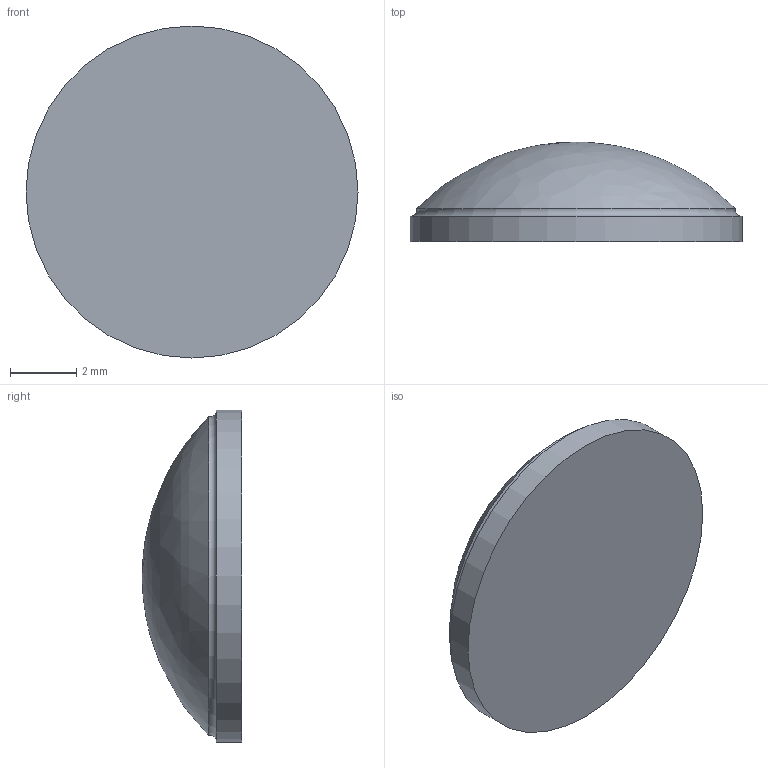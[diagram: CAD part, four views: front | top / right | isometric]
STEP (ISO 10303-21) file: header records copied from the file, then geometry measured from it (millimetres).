
FILE_DESCRIPTION(/* description */ (''),/* implementation_level */ '2;1');
FILE_NAME(/* name */ 'C:/Users/Mark/Downloads/STEP Files/BS10.step',/* time_stamp */ '2020-02-10T11:07:13-05:00',/* author */ (''),/* organization */ (''),/* preprocessor_version */ 'ST-DEVELOPER v18',/* originating_system */ 'Autodesk Translation Framework v8.12.0.6',/* authorisation */ '');
FILE_SCHEMA (('AUTOMOTIVE_DESIGN { 1 0 10303 214 3 1 1 }'));
Length unit declared in the file: inch
Products named in the file (1): BS10
Bounding box: 10.01 x 3 x 10.01 mm (x, y, z)
Volume: 154.1 mm3; surface area: 198.9 mm2
Topology: 1 solids, 1 shells, 4 faces, 11 edges, 8 vertices
Faces by surface type: bspline 1, torus 1, cylinder 1, plane 1
Full cylindrical faces by diameter (mm): 10.008 x1
Entity records: 192 total; most frequent: CARTESIAN_POINT 49, DIRECTION 27, ORIENTED_EDGE 20, AXIS2_PLACEMENT_3D 13, EDGE_CURVE 10, CIRCLE 9, VERTEX_POINT 8, FACE_OUTER_BOUND 4
